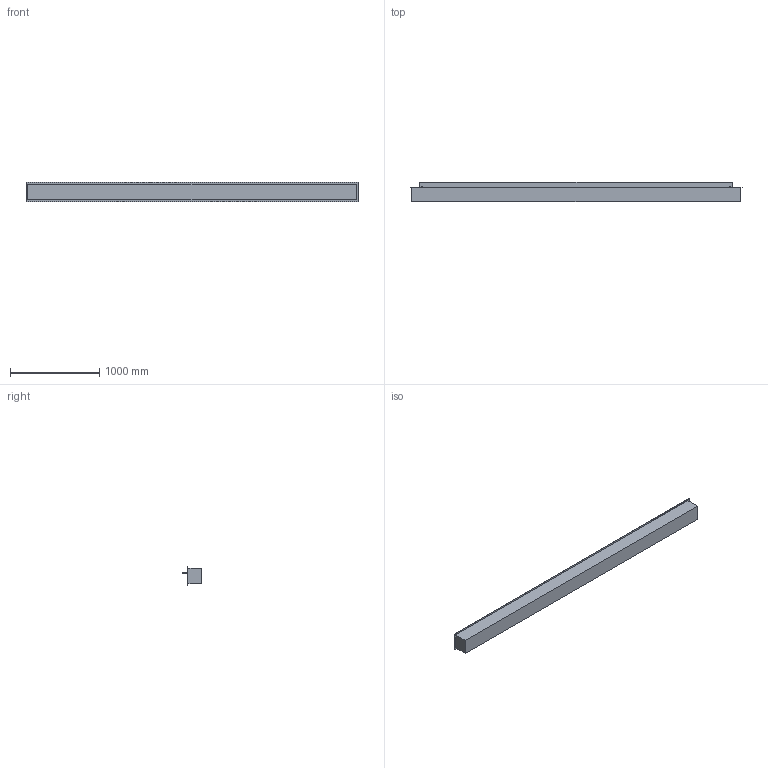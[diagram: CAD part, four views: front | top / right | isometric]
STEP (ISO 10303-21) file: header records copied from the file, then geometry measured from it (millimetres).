
FILE_DESCRIPTION (( 'STEP AP203' ), '1' );
FILE_NAME ('Denver F6 3720.STEP', '2024-03-13T09:32:20', ( '' ), ( '' ), 'SwSTEP 2.0', 'SolidWorks 2023', '' );
FILE_SCHEMA (( 'CONFIG_CONTROL_DESIGN' ));
Length unit declared in the file: millimetre
Products named in the file (1): Denver F6 3720
Bounding box: 3720 x 220 x 215 mm (x, y, z)
Volume: 105015219 mm3; surface area: 4692213 mm2
Topology: 8 solids, 8 shells, 68 faces, 156 edges, 104 vertices
Faces by surface type: plane 68
Entity records: 1955 total; most frequent: CARTESIAN_POINT 329, ORIENTED_EDGE 312, DIRECTION 294, EDGE_CURVE 156, LINE 156, VECTOR 156, VERTEX_POINT 104, EDGE_LOOP 74
